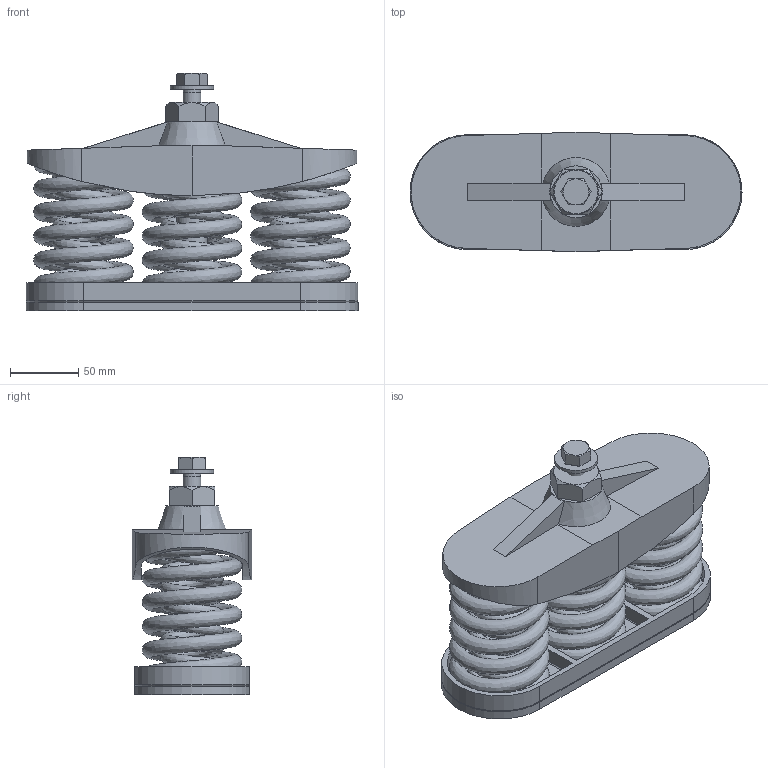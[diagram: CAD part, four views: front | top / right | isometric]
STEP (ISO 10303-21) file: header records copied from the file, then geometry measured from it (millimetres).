
FILE_DESCRIPTION(/* description */ (''),/* implementation_level */ '2;1');
FILE_NAME(/* name */ 'C:\2014_Work\SLF3.stp',/* time_stamp */ '2014-05-07T11:27:42-04:00',/* author */ ('mleuck'),/* organization */ (''),/* preprocessor_version */ 'ST-DEVELOPER v15.2',/* originating_system */ 'Autodesk Inventor 2014',/* authorisation */ '');
FILE_SCHEMA (('AUTOMOTIVE_DESIGN { 1 0 10303 214 3 1 1 }'));
Length unit declared in the file: inch
Products named in the file (10): C-1843-2 SLF-3 TOP PLATE; C-1843-2 SLF-3 BASE PLATE; C-1843-2 SLF-3 FLATBACK; A-19773-1 SLF-B ADJUSTMENT BOLT 4250 x 08750; ANSI B18.22.1 - 1_2 - Regular - Type B; ANSI_ASME B18.2.1 - 1_2-13 UNC - 1.25(2); SLF-3 WOS ASSEMBLY PER A-16399-1; SPRING C-1000 FH (BLACK); SPRING Z-750 FH (RED); SLF-3-5250
Bounding box: 242.89 x 87.31 x 173.71 mm (x, y, z)
Volume: 964618.1 mm3; surface area: 393613.1 mm2
Topology: 12 solids, 12 shells, 174 faces, 390 edges, 248 vertices
Faces by surface type: plane 95, cylinder 48, torus 13, cone 12, bspline 6
Full cylindrical faces by diameter (mm): 10.592 x1, 12.7 x1, 13.487 x1, 19.05 x1, 19.177 x1, 22.225 x1, 28.575 x6, 31.75 x1
Entity records: 8460 total; most frequent: CARTESIAN_POINT 4857, DIRECTION 756, ORIENTED_EDGE 640, EDGE_CURVE 320, AXIS2_PLACEMENT_3D 300, VERTEX_POINT 210, EDGE_LOOP 198, LINE 156
